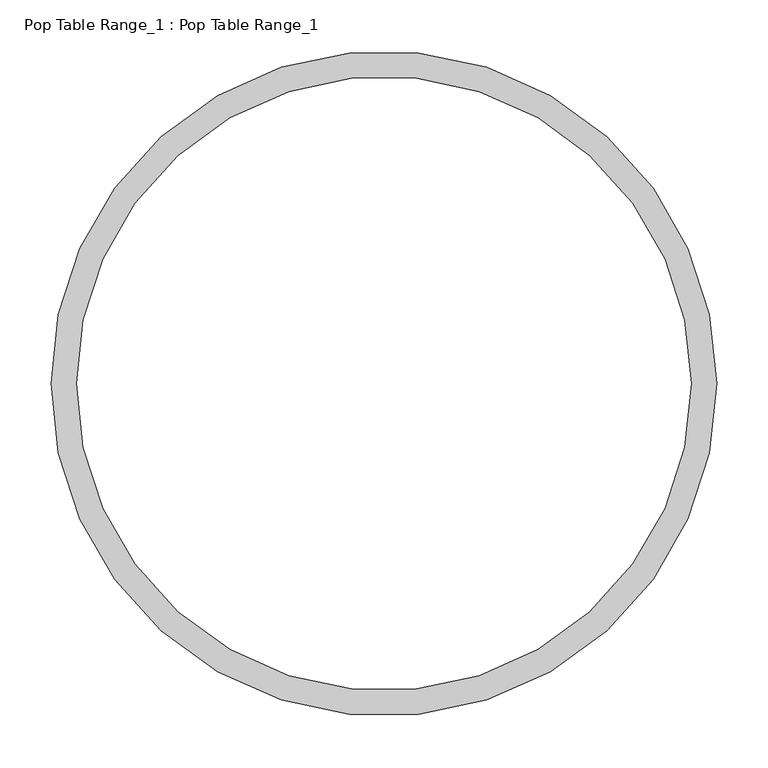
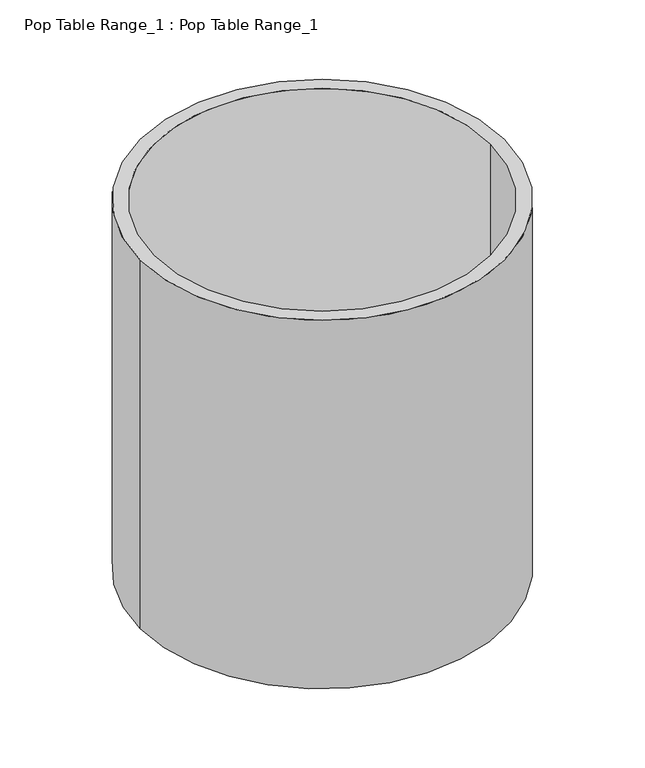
"""IFC4 building model written with IfcOpenShell, lengths in millimetres: proxy geometry, Pop Table Range_1 : Pop Table Range_1."""

from ifc_helpers import new_model, si_unit, point, origin, origin_with_axes, origin_2d, place, context, project, spatial, circle_curve, trimmed, segment, composite_curve, outline, extrude, source, transform, mapped, element, save


def pop_table_range_1_pop_table_range_1_06b6432b(model_context):
    return source(origin(), model_context, "Body", "SweptSolid", [
        extrude(outline(composite_curve([segment(trimmed(circle_curve(origin_2d(), 325.0), [point((-325.0, 0.0))], [point((325.0, 0.0))], False, "CARTESIAN"), True, "CONTINUOUS"), segment(trimmed(circle_curve(origin_2d(), 325.0), [point((325.0, 0.0))], [point((-325.0, 0.0))], False, "CARTESIAN"), True, "CONTINUOUS")], self_intersect=False), holes=[composite_curve([segment(trimmed(circle_curve(origin_2d(), 300.0), [point((-300.0, 0.0))], [point((300.0, 0.0))], True, "CARTESIAN"), True, "CONTINUOUS"), segment(trimmed(circle_curve(origin_2d(), 300.0), [point((300.0, 0.0))], [point((-300.0, 0.0))], True, "CARTESIAN"), True, "CONTINUOUS")], self_intersect=False)]), origin_with_axes(), (0.0, 0.0, 1.0), 695.0),
    ])


if __name__ == "__main__":
    model = new_model("IFC4")
    model_context = context("Model", 3, world=origin())
    ifc_project = project(units=[si_unit("LENGTHUNIT", "METRE", prefix="MILLI")], contexts=[model_context])
    site = spatial("IfcSite", under=ifc_project)
    building = spatial("IfcBuilding", under=site)
    placement = place(None, origin())
    pop_table_range_1_pop_table_range_1_shape = pop_table_range_1_pop_table_range_1_06b6432b(model_context)
    element("IfcBuildingElementProxy", 1, Name="Pop Table Range_1 : Pop Table Range_1", ObjectType="Pop Table Range_1 : Pop Table Range_1", at=placement, inside=building, context=model_context, shape_type="MappedRepresentation", body=[
        mapped(pop_table_range_1_pop_table_range_1_shape, transform((0.0, 0.0, 0.0), x_axis=(1.0, 0.0, 0.0), y_axis=(0.0, 1.0, 0.0), z_axis=(0.0, 0.0, 1.0))),
    ])
    save(model, "model.ifc")
